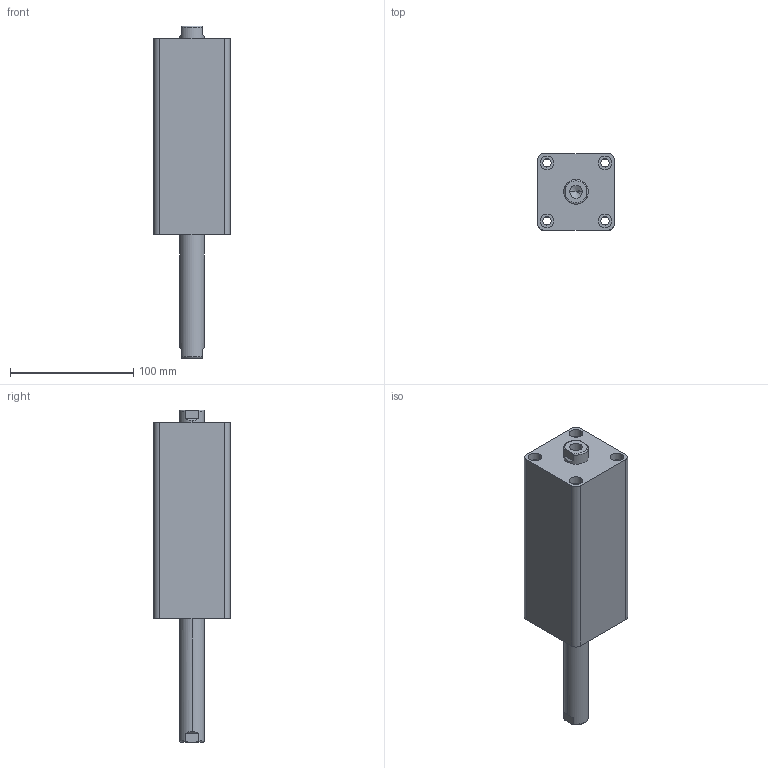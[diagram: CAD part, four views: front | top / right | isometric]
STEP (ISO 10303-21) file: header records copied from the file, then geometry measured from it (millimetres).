
FILE_DESCRIPTION (( 'STEP AP203' ), '1' );
FILE_NAME ('HTB-SW32-90N.STEP', '2019-10-07T08:59:45', ( '微软用户' ), ( '微软中国' ), 'SwSTEP 2.0', 'SolidWorks 2012', '' );
FILE_SCHEMA (( 'CONFIG_CONTROL_DESIGN' ));
Length unit declared in the file: millimetre
Products named in the file (3): HTB-SW32-90N; HTB-SW32-90N活塞杆; HTB-SW32-90掛极
Assembly tree (2 placements, depth 2):
  HTB-SW32-90N
    HTB-SW32-90掛极
    HTB-SW32-90N活塞杆
Bounding box: 62 x 62 x 269 mm (x, y, z)
Volume: 566926.6 mm3; surface area: 94851.5 mm2
Topology: 2 solids, 2 shells, 100 faces, 228 edges, 146 vertices
Faces by surface type: cylinder 48, plane 32, torus 12, cone 8
Entity records: 3237 total; most frequent: CARTESIAN_POINT 595, DIRECTION 542, ORIENTED_EDGE 448, AXIS2_PLACEMENT_3D 229, EDGE_CURVE 224, VERTEX_POINT 146, EDGE_LOOP 128, CIRCLE 124
